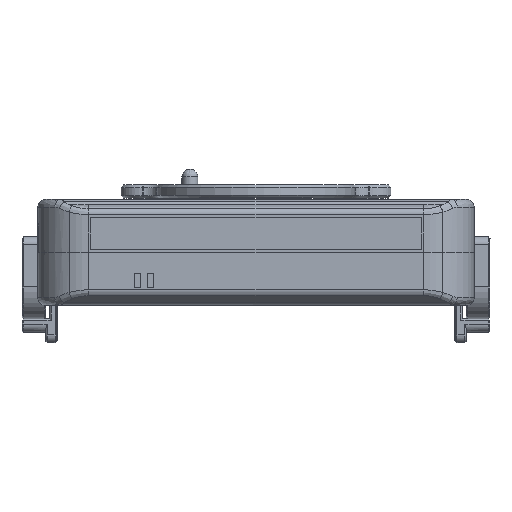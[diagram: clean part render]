
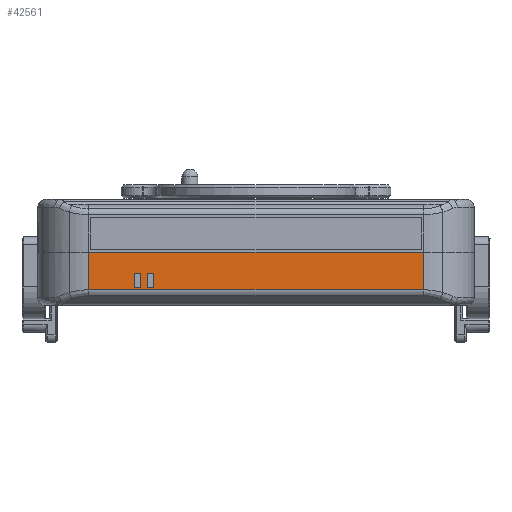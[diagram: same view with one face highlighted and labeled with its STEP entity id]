
A CAD part, top view. The second image highlights one B-rep face of the part: STEP entity #42561.
In plain terms, the highlighted planar face has unit normal (0, 0, 1).
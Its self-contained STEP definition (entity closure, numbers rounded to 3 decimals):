
#261 = CARTESIAN_POINT ( 'NONE',  ( -52.921, 1.08, 272. ) ) ;
#1320 = LINE ( 'NONE', #13551, #49280 ) ;
#2487 = CARTESIAN_POINT ( 'NONE',  ( -50.241, -1.229, 272. ) ) ;
#2972 = EDGE_LOOP ( 'NONE', ( #45326, #36067, #4061, #14357 ) ) ;
#3371 = EDGE_LOOP ( 'NONE', ( #9010, #30744, #51958, #32652 ) ) ;
#3500 = VECTOR ( 'NONE', #3833, 1000. ) ;
#3833 = DIRECTION ( 'NONE',  ( 1., 0., 0. ) ) ;
#4061 = ORIENTED_EDGE ( 'NONE', *, *, #46223, .T. ) ;
#4110 = VERTEX_POINT ( 'NONE', #261 ) ;
#5693 = VERTEX_POINT ( 'NONE', #23508 ) ;
#5909 = DIRECTION ( 'NONE',  ( 0., 0., 1. ) ) ;
#5988 = CARTESIAN_POINT ( 'NONE',  ( 54.06, 14.263, 272. ) ) ;
#6782 = ORIENTED_EDGE ( 'NONE', *, *, #19256, .T. ) ;
#7157 = CARTESIAN_POINT ( 'NONE',  ( -47.921, 1.08, 272. ) ) ;
#7654 = VERTEX_POINT ( 'NONE', #14305 ) ;
#7710 = CARTESIAN_POINT ( 'NONE',  ( -52.921, 6.4, 272. ) ) ;
#8312 = ORIENTED_EDGE ( 'NONE', *, *, #35555, .F. ) ;
#8348 = VECTOR ( 'NONE', #32233, 1000. ) ;
#8458 = EDGE_CURVE ( 'NONE', #14165, #44763, #37977, .T. ) ;
#9010 = ORIENTED_EDGE ( 'NONE', *, *, #44007, .T. ) ;
#9631 = DIRECTION ( 'NONE',  ( 1., 0., 0. ) ) ;
#9848 = CARTESIAN_POINT ( 'NONE',  ( 73.314, -1.229, 272. ) ) ;
#11931 = DIRECTION ( 'NONE',  ( 0., -1., 0. ) ) ;
#13551 = CARTESIAN_POINT ( 'NONE',  ( -7.449, 14.263, 272. ) ) ;
#13860 = CARTESIAN_POINT ( 'NONE',  ( -50.241, 6.4, 272. ) ) ;
#13914 = LINE ( 'NONE', #51379, #38171 ) ;
#14165 = VERTEX_POINT ( 'NONE', #52228 ) ;
#14305 = CARTESIAN_POINT ( 'NONE',  ( -72.431, 14.263, 272. ) ) ;
#14310 = CARTESIAN_POINT ( 'NONE',  ( 73.314, 1.08, 272. ) ) ;
#14357 = ORIENTED_EDGE ( 'NONE', *, *, #29900, .T. ) ;
#14360 = VECTOR ( 'NONE', #49144, 1000. ) ;
#14630 = VERTEX_POINT ( 'NONE', #5988 ) ;
#15676 = CARTESIAN_POINT ( 'NONE',  ( 73.314, 6.4, 272. ) ) ;
#16534 = FACE_OUTER_BOUND ( 'NONE', #20088, .T. ) ;
#17443 = CARTESIAN_POINT ( 'NONE',  ( -47.921, 6.4, 272. ) ) ;
#17712 = VECTOR ( 'NONE', #11931, 1000. ) ;
#17995 = DIRECTION ( 'NONE',  ( 0., -1., 0. ) ) ;
#18169 = EDGE_CURVE ( 'NONE', #4110, #23430, #48512, .T. ) ;
#18245 = CARTESIAN_POINT ( 'NONE',  ( 73.314, 0.08, 272. ) ) ;
#18441 = DIRECTION ( 'NONE',  ( 0., -1., 0. ) ) ;
#19048 = FACE_BOUND ( 'NONE', #2972, .T. ) ;
#19128 = CARTESIAN_POINT ( 'NONE',  ( -72.431, 0.08, 272. ) ) ;
#19256 = EDGE_CURVE ( 'NONE', #7654, #51779, #13914, .T. ) ;
#20088 = EDGE_LOOP ( 'NONE', ( #6782, #32421, #8312, #23478 ) ) ;
#20159 = CARTESIAN_POINT ( 'NONE',  ( 73.314, 1.08, 272. ) ) ;
#20377 = EDGE_CURVE ( 'NONE', #7654, #14630, #1320, .T. ) ;
#21577 = CARTESIAN_POINT ( 'NONE',  ( -55.241, 1.08, 272. ) ) ;
#22339 = DIRECTION ( 'NONE',  ( 1., 0., 0. ) ) ;
#23430 = VERTEX_POINT ( 'NONE', #21577 ) ;
#23478 = ORIENTED_EDGE ( 'NONE', *, *, #20377, .F. ) ;
#23508 = CARTESIAN_POINT ( 'NONE',  ( -50.241, 1.08, 272. ) ) ;
#23818 = VERTEX_POINT ( 'NONE', #27926 ) ;
#24232 = FACE_BOUND ( 'NONE', #3371, .T. ) ;
#24696 = AXIS2_PLACEMENT_3D ( 'NONE', #9848, #5909, #18441 ) ;
#25705 = DIRECTION ( 'NONE',  ( 0., -1., 0. ) ) ;
#25987 = LINE ( 'NONE', #46493, #28529 ) ;
#26885 = VECTOR ( 'NONE', #22339, 1000. ) ;
#27926 = CARTESIAN_POINT ( 'NONE',  ( 54.06, 0.08, 272. ) ) ;
#28173 = CARTESIAN_POINT ( 'NONE',  ( -52.921, -1.229, 272. ) ) ;
#28529 = VECTOR ( 'NONE', #25705, 1000. ) ;
#29510 = EDGE_CURVE ( 'NONE', #45229, #35184, #34529, .T. ) ;
#29900 = EDGE_CURVE ( 'NONE', #49262, #45229, #52327, .T. ) ;
#30378 = CARTESIAN_POINT ( 'NONE',  ( 73.314, 6.4, 272. ) ) ;
#30744 = ORIENTED_EDGE ( 'NONE', *, *, #18169, .T. ) ;
#31630 = EDGE_CURVE ( 'NONE', #23430, #14165, #47324, .T. ) ;
#32233 = DIRECTION ( 'NONE',  ( 0., 1., 0. ) ) ;
#32421 = ORIENTED_EDGE ( 'NONE', *, *, #52650, .T. ) ;
#32652 = ORIENTED_EDGE ( 'NONE', *, *, #8458, .T. ) ;
#34529 = LINE ( 'NONE', #50220, #45954 ) ;
#35184 = VERTEX_POINT ( 'NONE', #7157 ) ;
#35555 = EDGE_CURVE ( 'NONE', #14630, #23818, #25987, .T. ) ;
#36067 = ORIENTED_EDGE ( 'NONE', *, *, #45147, .T. ) ;
#37977 = LINE ( 'NONE', #15676, #3500 ) ;
#38171 = VECTOR ( 'NONE', #47287, 1000. ) ;
#38813 = LINE ( 'NONE', #2487, #50299 ) ;
#39900 = LINE ( 'NONE', #20159, #14360 ) ;
#41475 = VECTOR ( 'NONE', #46933, 1000. ) ;
#42107 = VECTOR ( 'NONE', #43209, 1000. ) ;
#42561 = ADVANCED_FACE ( 'NONE', ( #16534, #19048, #24232 ), #42836, .T. ) ;
#42836 = PLANE ( 'NONE',  #24696 ) ;
#43209 = DIRECTION ( 'NONE',  ( -1., 0., 0. ) ) ;
#44007 = EDGE_CURVE ( 'NONE', #44763, #4110, #50819, .T. ) ;
#44373 = CARTESIAN_POINT ( 'NONE',  ( -55.241, -1.229, 272. ) ) ;
#44763 = VERTEX_POINT ( 'NONE', #7710 ) ;
#45147 = EDGE_CURVE ( 'NONE', #35184, #5693, #39900, .T. ) ;
#45229 = VERTEX_POINT ( 'NONE', #17443 ) ;
#45326 = ORIENTED_EDGE ( 'NONE', *, *, #29510, .T. ) ;
#45954 = VECTOR ( 'NONE', #17995, 1000. ) ;
#46223 = EDGE_CURVE ( 'NONE', #5693, #49262, #38813, .T. ) ;
#46493 = CARTESIAN_POINT ( 'NONE',  ( 54.06, 14.263, 272. ) ) ;
#46933 = DIRECTION ( 'NONE',  ( 1., 0., 0. ) ) ;
#47287 = DIRECTION ( 'NONE',  ( 0., -1., 0. ) ) ;
#47324 = LINE ( 'NONE', #44373, #8348 ) ;
#48512 = LINE ( 'NONE', #14310, #42107 ) ;
#48538 = LINE ( 'NONE', #18245, #26885 ) ;
#49144 = DIRECTION ( 'NONE',  ( -1., 0., 0. ) ) ;
#49262 = VERTEX_POINT ( 'NONE', #13860 ) ;
#49280 = VECTOR ( 'NONE', #9631, 1000. ) ;
#50220 = CARTESIAN_POINT ( 'NONE',  ( -47.921, -1.229, 272. ) ) ;
#50299 = VECTOR ( 'NONE', #51207, 1000. ) ;
#50819 = LINE ( 'NONE', #28173, #17712 ) ;
#51207 = DIRECTION ( 'NONE',  ( 0., 1., 0. ) ) ;
#51379 = CARTESIAN_POINT ( 'NONE',  ( -72.431, -1.229, 272. ) ) ;
#51779 = VERTEX_POINT ( 'NONE', #19128 ) ;
#51958 = ORIENTED_EDGE ( 'NONE', *, *, #31630, .T. ) ;
#52228 = CARTESIAN_POINT ( 'NONE',  ( -55.241, 6.4, 272. ) ) ;
#52327 = LINE ( 'NONE', #30378, #41475 ) ;
#52650 = EDGE_CURVE ( 'NONE', #51779, #23818, #48538, .T. ) ;
